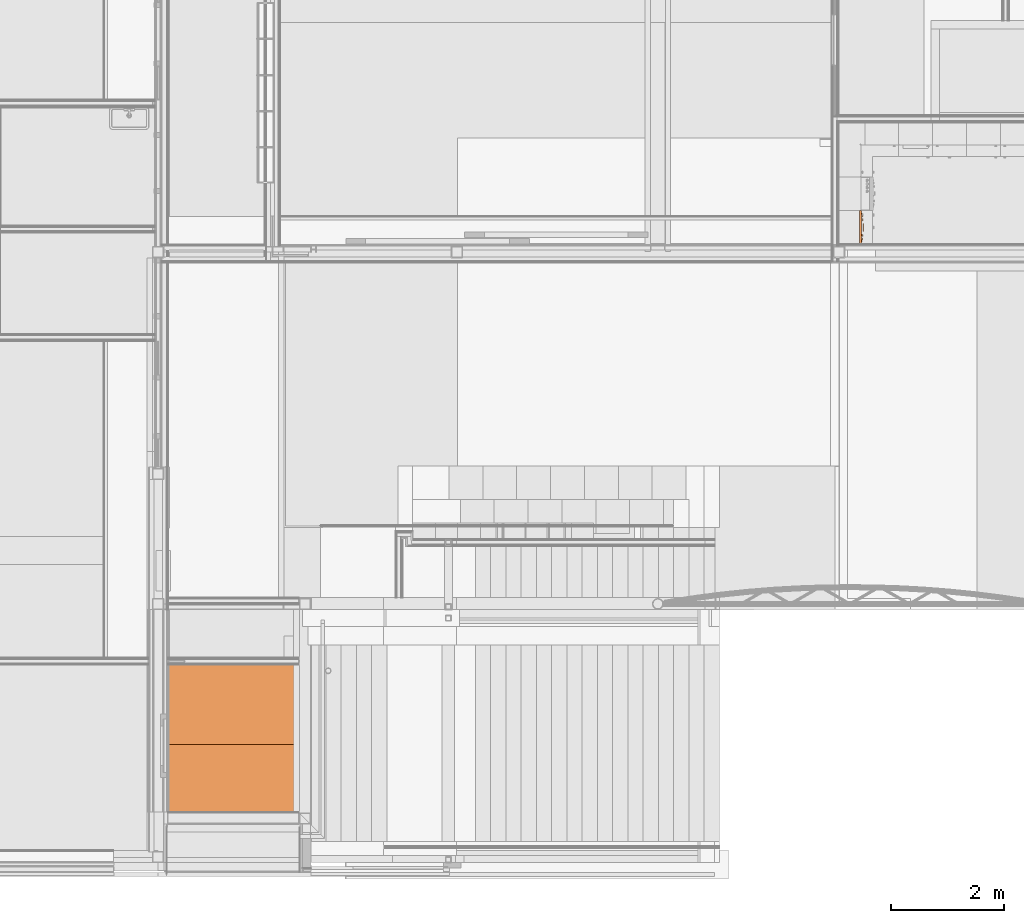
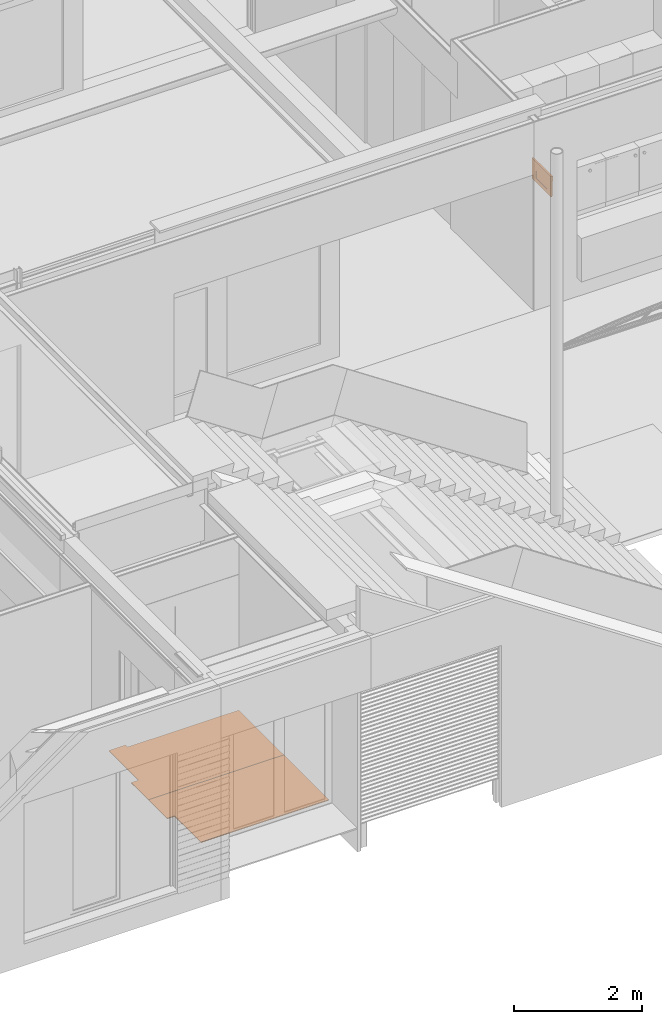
# One storey, part 143 of 165: 3 proxies.
"""IFC2X3 building model written with IfcOpenShell, lengths in millimetres."""

from ifc_helpers import new_model, entity, si_unit, converted_unit, derived_unit, money_unit, direction, frame, origin_with_axes, place, context, subcontext, project, spatial, faceted_brep, source, transform, mapped, material, type_object, type_shapes, element, save


model = new_model("IFC2X3")

# Units and contexts
model_context = context("Model", 3, precision=0.01, world=origin_with_axes(), true_north=direction((0.0, 1.0)))
body_context = subcontext(model_context, "Body", "Model", "MODEL_VIEW")
ifc_project = project(units=[si_unit("LENGTHUNIT", "METRE", prefix="MILLI"), si_unit("AREAUNIT", "SQUARE_METRE"), si_unit("VOLUMEUNIT", "CUBIC_METRE"), converted_unit("PLANEANGLEUNIT", "DEGREE", entity("IfcPlaneAngleMeasure", 0.0174532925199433), si_unit("PLANEANGLEUNIT", "RADIAN"), dimensions=[0, 0, 0, 0, 0, 0, 0]), money_unit("EUR"), converted_unit("TIMEUNIT", "Year", entity("IfcTimeMeasure", 31556926.0), si_unit("TIMEUNIT", "SECOND"), dimensions=[0, 0, 1, 0, 0, 0, 0]), si_unit("MASSUNIT", "GRAM", prefix="KILO"), si_unit("THERMODYNAMICTEMPERATUREUNIT", "DEGREE_CELSIUS"), si_unit("LUMINOUSINTENSITYUNIT", "LUMEN"), si_unit("ENERGYUNIT", "JOULE", prefix="MEGA"), derived_unit("THERMALCONDUCTANCEUNIT", [(si_unit("POWERUNIT", "WATT"), 1), (si_unit("LENGTHUNIT", "METRE"), -1), (si_unit("THERMODYNAMICTEMPERATUREUNIT", "KELVIN"), -1)]), derived_unit("SPECIFICHEATCAPACITYUNIT", [(si_unit("ENERGYUNIT", "JOULE"), 1), (si_unit("MASSUNIT", "GRAM", prefix="KILO"), -1), (si_unit("THERMODYNAMICTEMPERATUREUNIT", "KELVIN"), -1)]), derived_unit("MASSDENSITYUNIT", [(si_unit("MASSUNIT", "GRAM", prefix="KILO"), 1), (si_unit("VOLUMEUNIT", "CUBIC_METRE"), -1)])], contexts=[model_context])

# Site, building, storey
site_placement = place(None, origin_with_axes())
site = spatial("IfcSite", under=ifc_project, at=site_placement, Name="Site", CompositionType="ELEMENT")
building_placement = place(site_placement, origin_with_axes())
building = spatial("IfcBuilding", under=site, at=building_placement, Name="Naam gebouw", CompositionType="ELEMENT")
storey_placement = place(building_placement, origin_with_axes())
storey = spatial("IfcBuildingStorey", under=building, at=storey_placement, Name="Begane grond", CompositionType="ELEMENT", Elevation=0.0)

# Proxies
building_element_proxy_type_1 = type_object("IfcBuildingElementProxyType", Name="Oven inbouw 26", PredefinedType="NOTDEFINED")
shared_shape = source(origin_with_axes(), body_context, "Body", "Brep", [
    faceted_brep([(0.0, 20.0, 0.0), (0.0, 0.0, 0.0), (-600.0, 0.0, 0.0), (-600.0, 20.0, 0.0), (0.0, 20.00000000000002, 390.9999983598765), (0.0, 0.0, 390.9999983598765), (-600.0, 0.0, 390.9999983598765), (-130.0, 0.0, 73.31249969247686), (-470.0, 0.0, 73.31249969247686), (-470.0, 0.0, 219.9374990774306), (-130.0, 0.0, 219.9374990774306), (-600.0, 20.00000000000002, 390.9999983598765), (-130.0, 20.0, 73.31249969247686), (-130.0, 20.00000000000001, 219.9374990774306), (-470.0, 20.00000000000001, 219.9374990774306), (-470.0, 20.0, 73.31249969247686)], [[[0, 1, 2, 3]], [[4, 5, 1, 0]], [[1, 5, 6, 2], [7, 8, 9, 10]], [[3, 2, 6, 11]], [[0, 3, 11, 4], [12, 13, 14, 15]], [[11, 6, 5, 4]], [[15, 8, 7, 12]], [[14, 9, 8, 15]], [[13, 10, 9, 14]], [[12, 7, 10, 13]]]),
    faceted_brep([(-130.0, 15.00000000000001, 73.31249969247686), (-130.0, 5.000000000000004, 73.31249969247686), (-470.0, 5.000000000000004, 73.31249969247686), (-470.0, 15.00000000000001, 73.31249969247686), (-130.0, 15.00000000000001, 219.9374990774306), (-130.0, 5.000000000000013, 219.9374990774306), (-470.0, 5.000000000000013, 219.9374990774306), (-470.0, 15.00000000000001, 219.9374990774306)], [[[0, 1, 2, 3]], [[4, 5, 1, 0]], [[1, 5, 6, 2]], [[3, 2, 6, 7]], [[0, 3, 7, 4]], [[7, 6, 5, 4]]]),
    faceted_brep([(-10.0, 0.0, 10.0), (-10.0, -10.0, 10.0), (-590.0, -10.0, 10.0), (-590.0, 0.0, 10.0), (-10.0, 0.0, 288.2499987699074), (-10.0, -9.999999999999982, 288.2499987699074), (-590.0, -9.999999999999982, 288.2499987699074), (-75.0, -9.999999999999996, 63.31249969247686), (-525.0, -9.999999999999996, 63.31249969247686), (-525.0, -9.999999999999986, 229.9374990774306), (-75.0, -9.999999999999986, 229.9374990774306), (-590.0, 0.0, 288.2499987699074), (-75.0, 0.0, 63.31249969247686), (-75.0, 0.0, 229.9374990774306), (-525.0, 0.0, 229.9374990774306), (-525.0, 0.0, 63.31249969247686)], [[[0, 1, 2, 3]], [[4, 5, 1, 0]], [[1, 5, 6, 2], [7, 8, 9, 10]], [[3, 2, 6, 11]], [[0, 3, 11, 4], [12, 13, 14, 15]], [[11, 6, 5, 4]], [[15, 8, 7, 12]], [[14, 9, 8, 15]], [[13, 10, 9, 14]], [[12, 7, 10, 13]]]),
    faceted_brep([(0.0, 0.0, 303.2499987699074), (0.0, -10.0, 303.2499987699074), (-600.0, -10.0, 303.2499987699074), (-600.0, 0.0, 303.2499987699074), (0.0, 0.0, 390.9999983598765), (0.0, -9.999999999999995, 390.9999983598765), (-600.0, -9.999999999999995, 390.9999983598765), (-75.0, -9.999999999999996, 358.4166651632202), (-75.0, -9.999999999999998, 325.8333319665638), (-150.0, -9.999999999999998, 325.8333319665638), (-150.0, -9.999999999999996, 358.4166651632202), (-600.0, 0.0, 390.9999983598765), (-75.0, 0.0, 358.4166651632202), (-150.0, 0.0, 358.4166651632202), (-150.0, 0.0, 325.8333319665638), (-75.0, 0.0, 325.8333319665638)], [[[0, 1, 2, 3]], [[4, 5, 1, 0]], [[1, 5, 6, 2], [7, 8, 9, 10]], [[3, 2, 6, 11]], [[0, 3, 11, 4], [12, 13, 14, 15]], [[11, 6, 5, 4]], [[15, 8, 7, 12]], [[14, 9, 8, 15]], [[13, 10, 9, 14]], [[12, 7, 10, 13]]]),
    faceted_brep([(-11.9091801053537, -10.0, 255.666665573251), (-11.9091801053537, -10.0, 288.2499987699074), (-98.56811390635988, -29.21182309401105, 288.2499987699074), (-98.56811390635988, -29.21182309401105, 255.666665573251), (-34.98832452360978, -10.0, 255.666665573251), (-34.98832452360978, -10.0, 288.2499987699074), (-99.43635479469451, -24.28778432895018, 288.2499987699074), (-199.3351171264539, -37.43970589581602, 288.2499987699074), (-300.0, -41.83482959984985, 288.2499987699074), (-400.6648828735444, -37.43970589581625, 288.2499987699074), (-500.5636452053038, -24.2877843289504, 288.2499987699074), (-565.0116754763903, -10.0, 288.2499987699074), (-588.0908198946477, -10.0, 288.2499987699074), (-501.4318860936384, -29.21182309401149, 288.2499987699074), (-401.1006615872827, -42.42067938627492, 288.2499987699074), (-300.0, -46.83482959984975, 288.2499987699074), (-198.8993384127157, -42.42067938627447, 288.2499987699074), (-198.8993384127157, -42.42067938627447, 255.666665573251), (-588.0908198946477, -10.0, 255.666665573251), (-565.0116754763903, -9.999999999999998, 255.666665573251), (-500.5636452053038, -24.2877843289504, 255.666665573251), (-400.6648828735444, -37.43970589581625, 255.666665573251), (-300.0, -41.83482959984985, 255.666665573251), (-199.3351171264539, -37.43970589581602, 255.666665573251), (-99.43635479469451, -24.28778432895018, 255.666665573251), (-300.0, -46.83482959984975, 255.666665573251), (-401.1006615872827, -42.42067938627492, 255.666665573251), (-501.4318860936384, -29.21182309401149, 255.666665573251)], [[[0, 1, 2, 3]], [[0, 4, 5, 1]], [[1, 5, 6, 7, 8, 9, 10, 11, 12, 13, 14, 15, 16, 2]], [[3, 2, 16, 17]], [[18, 19, 20, 21, 22, 23, 24, 4, 0, 3, 17, 25, 26, 27]], [[24, 6, 5, 4]], [[23, 7, 6, 24]], [[22, 8, 7, 23]], [[21, 9, 8, 22]], [[20, 10, 9, 21]], [[19, 11, 10, 20]], [[18, 12, 11, 19]], [[27, 13, 12, 18]], [[26, 14, 13, 27]], [[25, 15, 14, 26]], [[17, 16, 15, 25]]]),
    faceted_brep([(-539.9429204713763, -10.0, 340.8176624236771), (-540.0, -10.0, 342.124998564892), (-539.9429204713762, -10.0, 343.4323347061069), (-539.7721162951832, -10.0, 344.7297212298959), (-539.4888873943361, -10.0, 346.0072842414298), (-539.0953893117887, -10.0, 347.255300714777), (-538.5946168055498, -10.0, 348.4642724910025), (-537.9903810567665, -10.0, 349.624998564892), (-537.287280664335, -10.0, 350.7286451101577), (-536.4906666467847, -10.0, 351.76681271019), (-535.6066017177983, -10.0, 352.7316002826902), (-534.6418141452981, -10.0, 353.6156652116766), (-533.6036465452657, -10.0, 354.4122792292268), (-532.5, -10.0, 355.1153796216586), (-531.3392739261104, -10.0, 355.7196153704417), (-530.1303021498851, -10.0, 356.2203878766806), (-528.8822856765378, -9.999999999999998, 356.613885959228), (-527.604722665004, -9.999999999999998, 356.8971148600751), (-526.3073361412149, -9.999999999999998, 357.0679190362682), (-525.0, -9.999999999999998, 357.124998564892), (-523.6926638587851, -9.999999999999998, 357.0679190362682), (-522.395277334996, -9.999999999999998, 356.8971148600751), (-521.1177143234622, -9.999999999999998, 356.613885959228), (-519.8696978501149, -10.0, 356.2203878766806), (-518.6607260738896, -10.0, 355.7196153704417), (-517.5000000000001, -10.0, 355.1153796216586), (-516.3963534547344, -10.0, 354.4122792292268), (-515.3581858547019, -10.0, 353.6156652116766), (-514.3933982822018, -10.0, 352.7316002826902), (-513.5093333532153, -10.0, 351.76681271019), (-512.712719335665, -10.0, 350.7286451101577), (-512.0096189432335, -10.0, 349.624998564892), (-511.4053831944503, -10.0, 348.4642724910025), (-510.9046106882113, -10.0, 347.255300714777), (-510.5111126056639, -10.0, 346.0072842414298), (-510.2278837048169, -10.0, 344.7297212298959), (-510.0570795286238, -10.0, 343.4323347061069), (-510.0, -10.0, 342.124998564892), (-510.0570795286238, -10.0, 340.8176624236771), (-510.2278837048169, -10.0, 339.520275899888), (-510.5111126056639, -10.0, 338.2427128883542), (-510.9046106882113, -10.0, 336.994696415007), (-511.4053831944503, -10.0, 335.7857246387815), (-512.0096189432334, -10.0, 334.624998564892), (-512.712719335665, -10.0, 333.5213520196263), (-513.5093333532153, -10.0, 332.4831844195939), (-514.3933982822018, -10.0, 331.5183968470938), (-515.3581858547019, -10.0, 330.6343319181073), (-516.3963534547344, -10.0, 329.8377179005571), (-517.5, -10.0, 329.1346175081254), (-518.6607260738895, -10.0, 328.5303817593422), (-519.8696978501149, -10.0, 328.0296092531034), (-521.1177143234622, -10.0, 327.636111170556), (-522.395277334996, -10.0, 327.3528822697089), (-523.6926638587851, -10.0, 327.1820780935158), (-525.0, -10.0, 327.1249985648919), (-526.3073361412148, -10.0, 327.1820780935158), (-527.604722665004, -10.0, 327.3528822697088), (-528.8822856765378, -10.0, 327.636111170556), (-530.1303021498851, -10.0, 328.0296092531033), (-531.3392739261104, -10.0, 328.5303817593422), (-532.5, -10.0, 329.1346175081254), (-533.6036465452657, -10.0, 329.8377179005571), (-534.6418141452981, -10.0, 330.6343319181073), (-535.6066017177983, -10.0, 331.5183968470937), (-536.4906666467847, -10.0, 332.4831844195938), (-537.287280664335, -10.0, 333.5213520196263), (-537.9903810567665, -10.0, 334.624998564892), (-538.5946168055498, -10.0, 335.7857246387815), (-539.0953893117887, -10.0, 336.994696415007), (-539.4888873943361, -10.0, 338.2427128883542), (-539.7721162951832, -10.0, 339.520275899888), (-539.9429204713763, -20.0, 340.8176624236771), (-540.0, -20.0, 342.124998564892), (-539.9429204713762, -20.0, 343.4323347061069), (-539.7721162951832, -20.0, 344.7297212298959), (-539.4888873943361, -20.0, 346.0072842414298), (-539.0953893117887, -20.0, 347.255300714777), (-538.5946168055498, -20.0, 348.4642724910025), (-537.9903810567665, -20.0, 349.624998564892), (-537.287280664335, -20.0, 350.7286451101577), (-536.4906666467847, -20.0, 351.76681271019), (-535.6066017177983, -20.0, 352.7316002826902), (-534.6418141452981, -20.0, 353.6156652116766), (-533.6036465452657, -20.0, 354.4122792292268), (-532.5, -20.0, 355.1153796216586), (-531.3392739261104, -20.0, 355.7196153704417), (-530.1303021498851, -20.0, 356.2203878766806), (-528.8822856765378, -20.0, 356.613885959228), (-527.604722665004, -20.0, 356.8971148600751), (-526.3073361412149, -20.0, 357.0679190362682), (-525.0, -20.0, 357.124998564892), (-523.6926638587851, -20.0, 357.0679190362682), (-522.395277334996, -20.0, 356.8971148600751), (-521.1177143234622, -20.0, 356.613885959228), (-519.8696978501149, -20.0, 356.2203878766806), (-518.6607260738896, -20.0, 355.7196153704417), (-517.5000000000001, -20.0, 355.1153796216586), (-516.3963534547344, -20.0, 354.4122792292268), (-515.3581858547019, -20.0, 353.6156652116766), (-514.3933982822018, -20.0, 352.7316002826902), (-513.5093333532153, -20.0, 351.76681271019), (-512.712719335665, -20.0, 350.7286451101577), (-512.0096189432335, -20.0, 349.624998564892), (-511.4053831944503, -20.0, 348.4642724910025), (-510.9046106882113, -20.0, 347.255300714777), (-510.5111126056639, -20.0, 346.0072842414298), (-510.2278837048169, -20.0, 344.7297212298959), (-510.0570795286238, -20.0, 343.4323347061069), (-510.0, -20.0, 342.124998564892), (-510.0570795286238, -20.0, 340.8176624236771), (-510.2278837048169, -20.0, 339.520275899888), (-510.5111126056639, -20.0, 338.2427128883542), (-510.9046106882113, -20.0, 336.994696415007), (-511.4053831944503, -20.0, 335.7857246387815), (-512.0096189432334, -20.0, 334.624998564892), (-512.712719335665, -20.0, 333.5213520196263), (-513.5093333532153, -20.0, 332.4831844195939), (-514.3933982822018, -20.0, 331.5183968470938), (-515.3581858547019, -20.0, 330.6343319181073), (-516.3963534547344, -20.0, 329.8377179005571), (-517.5, -20.0, 329.1346175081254), (-518.6607260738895, -20.0, 328.5303817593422), (-519.8696978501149, -20.0, 328.0296092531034), (-521.1177143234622, -20.0, 327.636111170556), (-522.395277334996, -20.0, 327.3528822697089), (-523.6926638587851, -20.0, 327.1820780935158), (-525.0, -20.0, 327.1249985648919), (-526.3073361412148, -20.0, 327.1820780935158), (-527.604722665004, -20.0, 327.3528822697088), (-528.8822856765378, -20.0, 327.636111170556), (-530.1303021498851, -20.0, 328.0296092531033), (-531.3392739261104, -20.0, 328.5303817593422), (-532.5, -20.0, 329.1346175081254), (-533.6036465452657, -20.0, 329.8377179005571), (-534.6418141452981, -20.0, 330.6343319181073), (-535.6066017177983, -20.0, 331.5183968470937), (-536.4906666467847, -20.0, 332.4831844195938), (-537.287280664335, -20.0, 333.5213520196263), (-537.9903810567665, -20.0, 334.624998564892), (-538.5946168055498, -20.0, 335.7857246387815), (-539.0953893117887, -20.0, 336.994696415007), (-539.4888873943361, -20.0, 338.2427128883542), (-539.7721162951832, -20.0, 339.520275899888)], [[[0, 1, 2, 3, 4, 5, 6, 7, 8, 9, 10, 11, 12, 13, 14, 15, 16, 17, 18, 19, 20, 21, 22, 23, 24, 25, 26, 27, 28, 29, 30, 31, 32, 33, 34, 35, 36, 37, 38, 39, 40, 41, 42, 43, 44, 45, 46, 47, 48, 49, 50, 51, 52, 53, 54, 55, 56, 57, 58, 59, 60, 61, 62, 63, 64, 65, 66, 67, 68, 69, 70, 71]], [[0, 72, 73, 1]], [[1, 73, 74, 2]], [[2, 74, 75, 3]], [[3, 75, 76, 4]], [[4, 76, 77, 5]], [[5, 77, 78, 6]], [[6, 78, 79, 7]], [[7, 79, 80, 8]], [[8, 80, 81, 9]], [[9, 81, 82, 10]], [[10, 82, 83, 11]], [[11, 83, 84, 12]], [[12, 84, 85, 13]], [[13, 85, 86, 14]], [[14, 86, 87, 15]], [[15, 87, 88, 16]], [[16, 88, 89, 17]], [[17, 89, 90, 18]], [[18, 90, 91, 19]], [[19, 91, 92, 20]], [[20, 92, 93, 21]], [[21, 93, 94, 22]], [[22, 94, 95, 23]], [[23, 95, 96, 24]], [[24, 96, 97, 25]], [[25, 97, 98, 26]], [[26, 98, 99, 27]], [[27, 99, 100, 28]], [[28, 100, 101, 29]], [[29, 101, 102, 30]], [[30, 102, 103, 31]], [[31, 103, 104, 32]], [[32, 104, 105, 33]], [[33, 105, 106, 34]], [[34, 106, 107, 35]], [[35, 107, 108, 36]], [[36, 108, 109, 37]], [[37, 109, 110, 38]], [[38, 110, 111, 39]], [[39, 111, 112, 40]], [[40, 112, 113, 41]], [[41, 113, 114, 42]], [[42, 114, 115, 43]], [[43, 115, 116, 44]], [[44, 116, 117, 45]], [[45, 117, 118, 46]], [[46, 118, 119, 47]], [[47, 119, 120, 48]], [[48, 120, 121, 49]], [[49, 121, 122, 50]], [[50, 122, 123, 51]], [[51, 123, 124, 52]], [[52, 124, 125, 53]], [[53, 125, 126, 54]], [[54, 126, 127, 55]], [[55, 127, 128, 56]], [[56, 128, 129, 57]], [[57, 129, 130, 58]], [[58, 130, 131, 59]], [[59, 131, 132, 60]], [[60, 132, 133, 61]], [[61, 133, 134, 62]], [[62, 134, 135, 63]], [[63, 135, 136, 64]], [[64, 136, 137, 65]], [[65, 137, 138, 66]], [[66, 138, 139, 67]], [[67, 139, 140, 68]], [[68, 140, 141, 69]], [[69, 141, 142, 70]], [[70, 142, 143, 71]], [[71, 143, 72, 0]], [[72, 143, 142, 141, 140, 139, 138, 137, 136, 135, 134, 133, 132, 131, 130, 129, 128, 127, 126, 125, 124, 123, 122, 121, 120, 119, 118, 117, 116, 115, 114, 113, 112, 111, 110, 109, 108, 107, 106, 105, 104, 103, 102, 101, 100, 99, 98, 97, 96, 95, 94, 93, 92, 91, 90, 89, 88, 87, 86, 85, 84, 83, 82, 81, 80, 79, 78, 77, 76, 75, 74, 73]]]),
    faceted_brep([(-446.1929204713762, -10.0, 340.8176624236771), (-446.2500000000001, -10.0, 342.124998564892), (-446.1929204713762, -10.0, 343.4323347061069), (-446.0221162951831, -10.0, 344.7297212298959), (-445.738887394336, -10.0, 346.0072842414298), (-445.3453893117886, -10.0, 347.255300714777), (-444.8446168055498, -10.0, 348.4642724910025), (-444.2403810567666, -10.0, 349.624998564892), (-443.5372806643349, -10.0, 350.7286451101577), (-442.7406666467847, -10.0, 351.76681271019), (-441.8566017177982, -10.0, 352.7316002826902), (-440.8918141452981, -10.0, 353.6156652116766), (-439.8536465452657, -10.0, 354.4122792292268), (-438.7500000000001, -10.0, 355.1153796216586), (-437.5892739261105, -10.0, 355.7196153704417), (-436.380302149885, -10.0, 356.2203878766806), (-435.1322856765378, -9.999999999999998, 356.613885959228), (-433.854722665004, -9.999999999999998, 356.8971148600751), (-432.5573361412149, -9.999999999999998, 357.0679190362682), (-431.25, -9.999999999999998, 357.124998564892), (-429.9426638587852, -9.999999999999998, 357.0679190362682), (-428.6452773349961, -9.999999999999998, 356.8971148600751), (-427.3677143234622, -9.999999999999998, 356.613885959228), (-426.119697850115, -10.0, 356.2203878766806), (-424.9107260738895, -10.0, 355.7196153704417), (-423.75, -10.0, 355.1153796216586), (-422.6463534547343, -10.0, 354.4122792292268), (-421.608185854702, -10.0, 353.6156652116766), (-420.6433982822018, -10.0, 352.7316002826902), (-419.7593333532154, -10.0, 351.76681271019), (-418.9627193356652, -10.0, 350.7286451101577), (-418.2596189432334, -10.0, 349.624998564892), (-417.6553831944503, -10.0, 348.4642724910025), (-417.1546106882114, -10.0, 347.255300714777), (-416.761112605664, -10.0, 346.0072842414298), (-416.4778837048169, -10.0, 344.7297212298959), (-416.3070795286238, -10.0, 343.4323347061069), (-416.25, -10.0, 342.124998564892), (-416.3070795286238, -10.0, 340.8176624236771), (-416.4778837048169, -10.0, 339.520275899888), (-416.761112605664, -10.0, 338.2427128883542), (-417.1546106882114, -10.0, 336.994696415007), (-417.6553831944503, -10.0, 335.7857246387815), (-418.2596189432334, -10.0, 334.624998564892), (-418.9627193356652, -10.0, 333.5213520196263), (-419.7593333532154, -10.0, 332.4831844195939), (-420.6433982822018, -10.0, 331.5183968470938), (-421.608185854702, -10.0, 330.6343319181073), (-422.6463534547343, -10.0, 329.8377179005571), (-423.75, -10.0, 329.1346175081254), (-424.9107260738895, -10.0, 328.5303817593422), (-426.119697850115, -10.0, 328.0296092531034), (-427.3677143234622, -10.0, 327.636111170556), (-428.6452773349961, -10.0, 327.3528822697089), (-429.9426638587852, -10.0, 327.1820780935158), (-431.25, -10.0, 327.1249985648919), (-432.5573361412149, -10.0, 327.1820780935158), (-433.854722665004, -10.0, 327.3528822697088), (-435.1322856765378, -10.0, 327.636111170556), (-436.380302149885, -10.0, 328.0296092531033), (-437.5892739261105, -10.0, 328.5303817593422), (-438.7500000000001, -10.0, 329.1346175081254), (-439.8536465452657, -10.0, 329.8377179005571), (-440.8918141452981, -10.0, 330.6343319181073), (-441.8566017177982, -10.0, 331.5183968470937), (-442.7406666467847, -10.0, 332.4831844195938), (-443.5372806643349, -10.0, 333.5213520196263), (-444.2403810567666, -10.0, 334.624998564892), (-444.8446168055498, -10.0, 335.7857246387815), (-445.3453893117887, -10.0, 336.994696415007), (-445.738887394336, -10.0, 338.2427128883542), (-446.0221162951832, -10.0, 339.520275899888), (-446.1929204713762, -20.0, 340.8176624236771), (-446.2500000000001, -20.0, 342.124998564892), (-446.1929204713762, -20.0, 343.4323347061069), (-446.0221162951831, -20.0, 344.7297212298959), (-445.738887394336, -20.0, 346.0072842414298), (-445.3453893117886, -20.0, 347.255300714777), (-444.8446168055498, -20.0, 348.4642724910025), (-444.2403810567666, -20.0, 349.624998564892), (-443.5372806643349, -20.0, 350.7286451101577), (-442.7406666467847, -20.0, 351.76681271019), (-441.8566017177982, -20.0, 352.7316002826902), (-440.8918141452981, -20.0, 353.6156652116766), (-439.8536465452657, -20.0, 354.4122792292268), (-438.7500000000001, -20.0, 355.1153796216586), (-437.5892739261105, -20.0, 355.7196153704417), (-436.380302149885, -20.0, 356.2203878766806), (-435.1322856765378, -20.0, 356.613885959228), (-433.854722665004, -20.0, 356.8971148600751), (-432.5573361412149, -20.0, 357.0679190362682), (-431.25, -20.0, 357.124998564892), (-429.9426638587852, -20.0, 357.0679190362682), (-428.6452773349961, -20.0, 356.8971148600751), (-427.3677143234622, -20.0, 356.613885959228), (-426.119697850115, -20.0, 356.2203878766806), (-424.9107260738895, -20.0, 355.7196153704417), (-423.75, -20.0, 355.1153796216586), (-422.6463534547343, -20.0, 354.4122792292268), (-421.608185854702, -20.0, 353.6156652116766), (-420.6433982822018, -20.0, 352.7316002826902), (-419.7593333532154, -20.0, 351.76681271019), (-418.9627193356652, -20.0, 350.7286451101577), (-418.2596189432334, -20.0, 349.624998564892), (-417.6553831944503, -20.0, 348.4642724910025), (-417.1546106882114, -20.0, 347.255300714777), (-416.761112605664, -20.0, 346.0072842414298), (-416.4778837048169, -20.0, 344.7297212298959), (-416.3070795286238, -20.0, 343.4323347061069), (-416.25, -20.0, 342.124998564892), (-416.3070795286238, -20.0, 340.8176624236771), (-416.4778837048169, -20.0, 339.520275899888), (-416.761112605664, -20.0, 338.2427128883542), (-417.1546106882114, -20.0, 336.994696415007), (-417.6553831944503, -20.0, 335.7857246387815), (-418.2596189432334, -20.0, 334.624998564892), (-418.9627193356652, -20.0, 333.5213520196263), (-419.7593333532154, -20.0, 332.4831844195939), (-420.6433982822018, -20.0, 331.5183968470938), (-421.608185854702, -20.0, 330.6343319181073), (-422.6463534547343, -20.0, 329.8377179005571), (-423.75, -20.0, 329.1346175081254), (-424.9107260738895, -20.0, 328.5303817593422), (-426.119697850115, -20.0, 328.0296092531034), (-427.3677143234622, -20.0, 327.636111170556), (-428.6452773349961, -20.0, 327.3528822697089), (-429.9426638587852, -20.0, 327.1820780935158), (-431.25, -20.0, 327.1249985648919), (-432.5573361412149, -20.0, 327.1820780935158), (-433.854722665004, -20.0, 327.3528822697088), (-435.1322856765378, -20.0, 327.636111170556), (-436.380302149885, -20.0, 328.0296092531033), (-437.5892739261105, -20.0, 328.5303817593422), (-438.7500000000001, -20.0, 329.1346175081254), (-439.8536465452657, -20.0, 329.8377179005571), (-440.8918141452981, -20.0, 330.6343319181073), (-441.8566017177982, -20.0, 331.5183968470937), (-442.7406666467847, -20.0, 332.4831844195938), (-443.5372806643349, -20.0, 333.5213520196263), (-444.2403810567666, -20.0, 334.624998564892), (-444.8446168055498, -20.0, 335.7857246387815), (-445.3453893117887, -20.0, 336.994696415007), (-445.738887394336, -20.0, 338.2427128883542), (-446.0221162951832, -20.0, 339.520275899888)], [[[0, 1, 2, 3, 4, 5, 6, 7, 8, 9, 10, 11, 12, 13, 14, 15, 16, 17, 18, 19, 20, 21, 22, 23, 24, 25, 26, 27, 28, 29, 30, 31, 32, 33, 34, 35, 36, 37, 38, 39, 40, 41, 42, 43, 44, 45, 46, 47, 48, 49, 50, 51, 52, 53, 54, 55, 56, 57, 58, 59, 60, 61, 62, 63, 64, 65, 66, 67, 68, 69, 70, 71]], [[0, 72, 73, 1]], [[1, 73, 74, 2]], [[2, 74, 75, 3]], [[3, 75, 76, 4]], [[4, 76, 77, 5]], [[5, 77, 78, 6]], [[6, 78, 79, 7]], [[7, 79, 80, 8]], [[8, 80, 81, 9]], [[9, 81, 82, 10]], [[10, 82, 83, 11]], [[11, 83, 84, 12]], [[12, 84, 85, 13]], [[13, 85, 86, 14]], [[14, 86, 87, 15]], [[15, 87, 88, 16]], [[16, 88, 89, 17]], [[17, 89, 90, 18]], [[18, 90, 91, 19]], [[19, 91, 92, 20]], [[20, 92, 93, 21]], [[21, 93, 94, 22]], [[22, 94, 95, 23]], [[23, 95, 96, 24]], [[24, 96, 97, 25]], [[25, 97, 98, 26]], [[26, 98, 99, 27]], [[27, 99, 100, 28]], [[28, 100, 101, 29]], [[29, 101, 102, 30]], [[30, 102, 103, 31]], [[31, 103, 104, 32]], [[32, 104, 105, 33]], [[33, 105, 106, 34]], [[34, 106, 107, 35]], [[35, 107, 108, 36]], [[36, 108, 109, 37]], [[37, 109, 110, 38]], [[38, 110, 111, 39]], [[39, 111, 112, 40]], [[40, 112, 113, 41]], [[41, 113, 114, 42]], [[42, 114, 115, 43]], [[43, 115, 116, 44]], [[44, 116, 117, 45]], [[45, 117, 118, 46]], [[46, 118, 119, 47]], [[47, 119, 120, 48]], [[48, 120, 121, 49]], [[49, 121, 122, 50]], [[50, 122, 123, 51]], [[51, 123, 124, 52]], [[52, 124, 125, 53]], [[53, 125, 126, 54]], [[54, 126, 127, 55]], [[55, 127, 128, 56]], [[56, 128, 129, 57]], [[57, 129, 130, 58]], [[58, 130, 131, 59]], [[59, 131, 132, 60]], [[60, 132, 133, 61]], [[61, 133, 134, 62]], [[62, 134, 135, 63]], [[63, 135, 136, 64]], [[64, 136, 137, 65]], [[65, 137, 138, 66]], [[66, 138, 139, 67]], [[67, 139, 140, 68]], [[68, 140, 141, 69]], [[69, 141, 142, 70]], [[70, 142, 143, 71]], [[71, 143, 72, 0]], [[72, 143, 142, 141, 140, 139, 138, 137, 136, 135, 134, 133, 132, 131, 130, 129, 128, 127, 126, 125, 124, 123, 122, 121, 120, 119, 118, 117, 116, 115, 114, 113, 112, 111, 110, 109, 108, 107, 106, 105, 104, 103, 102, 101, 100, 99, 98, 97, 96, 95, 94, 93, 92, 91, 90, 89, 88, 87, 86, 85, 84, 83, 82, 81, 80, 79, 78, 77, 76, 75, 74, 73]]]),
])
type_shapes(building_element_proxy_type_1, [shared_shape])
proxy_1_placement = place(storey_placement, frame((21293.00167438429, 11544.99881672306, 1800.0), z_axis=(0.0, 0.0, 1.0), x_axis=(0.0, 1.0, 0.0)))
element("IfcBuildingElementProxy", 1, at=proxy_1_placement, inside=storey, type_object=building_element_proxy_type_1, Name="_Leeg", context=body_context, shape_type="MappedRepresentation", body=[
    mapped(shared_shape, transform((0.0, 0.0, 0.0))),
])
ifc_material_1 = material(Name="Vloerafwerking - schoonloopzone 2")
building_element_proxy_type_2 = type_object("IfcBuildingElementProxyType", Name="Vloerafwerking - schoonloopzone 2 15", PredefinedType="NOTDEFINED")
proxy_2_placement = place(storey_placement, frame((11336.0, 679.999999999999, -10.0), z_axis=(0.0, 0.0, 1.0), x_axis=(1.0, 0.0, 0.0)))
element("IfcBuildingElementProxy", 2, at=proxy_2_placement, inside=storey, type_object=building_element_proxy_type_2, material=ifc_material_1, Name="_43 schoonloop zone 2", context=body_context, shape_type="Brep", body=[
    faceted_brep([(0.0, 0.0, 15.0), (0.0, 0.0, 0.0), (0.0, 1410.0, 0.0), (0.0, 1410.0, 15.0), (-2310.999999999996, 0.0, 15.0), (-2310.999999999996, 0.0, 0.0), (-2310.999999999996, 823.2171824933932, 0.0), (-2442.999999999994, 823.2171824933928, 0.0), (-2442.999999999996, 1409.999999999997, 0.0), (-2442.999999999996, 1409.999999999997, 15.0), (-2442.999999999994, 823.2171824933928, 15.0), (-2310.999999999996, 823.2171824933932, 15.0)], [[[0, 1, 2, 3]], [[4, 5, 1, 0]], [[2, 1, 5, 6, 7, 8]], [[3, 2, 8, 9]], [[4, 0, 3, 9, 10, 11]], [[11, 6, 5, 4]], [[10, 7, 6, 11]], [[9, 8, 7, 10]]]),
])
ifc_material_2 = material(Name="Vloerafwerking - schoonloopzone 3")
building_element_proxy_type_3 = type_object("IfcBuildingElementProxyType", Name="Vloerafwerking - schoonloopzone 3 15", PredefinedType="NOTDEFINED")
proxy_3_placement = place(storey_placement, frame((8892.999999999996, 2089.999999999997, -10.0), z_axis=(0.0, 0.0, 1.0), x_axis=(1.0, 0.0, 0.0)))
element("IfcBuildingElementProxy", 3, at=proxy_3_placement, inside=storey, type_object=building_element_proxy_type_3, material=ifc_material_2, Name="_schoonloop zone 3", context=body_context, shape_type="Brep", body=[
    faceted_brep([(0.0, 0.0, 15.0), (0.0, 0.0, 0.0), (2442.999999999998, 0.0, 0.0), (2442.999999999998, 0.0, 15.0), (0.0, 543.2171824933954, 15.0), (0.0, 543.2171824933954, 0.0), (132.0000000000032, 543.2171824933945, 0.0), (131.9999999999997, 1472.495699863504, 0.0), (432.9999948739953, 1472.495699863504, 0.0), (432.9999948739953, 1409.99572060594, 0.0), (2442.999999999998, 1409.99572060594, 0.0), (2442.999999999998, 1409.99572060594, 15.0), (432.9999948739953, 1409.99572060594, 15.0), (432.9999948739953, 1472.495699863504, 15.0), (131.9999999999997, 1472.495699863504, 15.0), (132.0000000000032, 543.2171824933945, 15.0)], [[[0, 1, 2, 3]], [[4, 5, 1, 0]], [[2, 1, 5, 6, 7, 8, 9, 10]], [[3, 2, 10, 11]], [[4, 0, 3, 11, 12, 13, 14, 15]], [[15, 6, 5, 4]], [[14, 7, 6, 15]], [[13, 8, 7, 14]], [[12, 9, 8, 13]], [[11, 10, 9, 12]]]),
])

save(model, "model.ifc")
